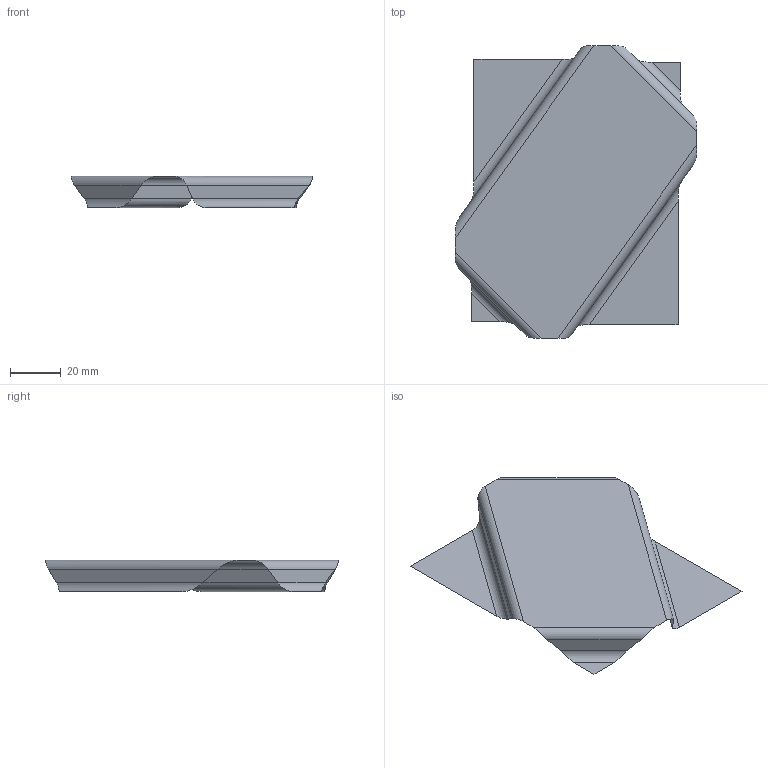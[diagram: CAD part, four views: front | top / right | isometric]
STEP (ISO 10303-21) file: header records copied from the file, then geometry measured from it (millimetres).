
FILE_DESCRIPTION(('CATIA V5 STEP Exchange'),'2;1');
FILE_NAME('C:\_Andres\UNIVERSIDAD\IQS\ASIGNATURAS\DAO\EXF\EXF-15161c\1original\Elvira_Arias_Ej03-chapa_v5.stp','2016-03-04T16:55:41+00:00',('none'),('none'),'CATIA Version 5 Release 20 SP 1 (IN-10)','CATIA V5 STEP AP203','none');
FILE_SCHEMA(('CONFIG_CONTROL_DESIGN'));
Length unit declared in the file: millimetre
Products named in the file (1): Elvira_Arias_Ej03-chapa_v5
Bounding box: 95.01 x 115.01 x 12.29 mm (x, y, z)
Surface area: 10962.7 mm2 (no closed solid volume)
Topology: 0 solids, 1 shells, 17 faces, 52 edges, 36 vertices
Faces by surface type: plane 9, cylinder 8
Entity records: 625 total; most frequent: CARTESIAN_POINT 200, ORIENTED_EDGE 68, DIRECTION 59, EDGE_CURVE 52, VERTEX_POINT 36, B_SPLINE_CURVE_WITH_KNOTS 29, VECTOR 23, LINE 23
